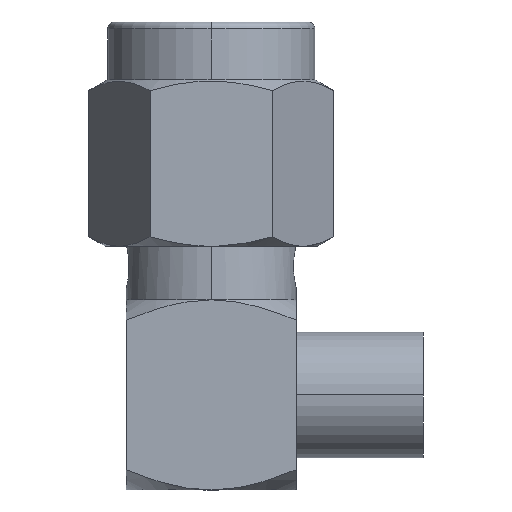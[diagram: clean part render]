
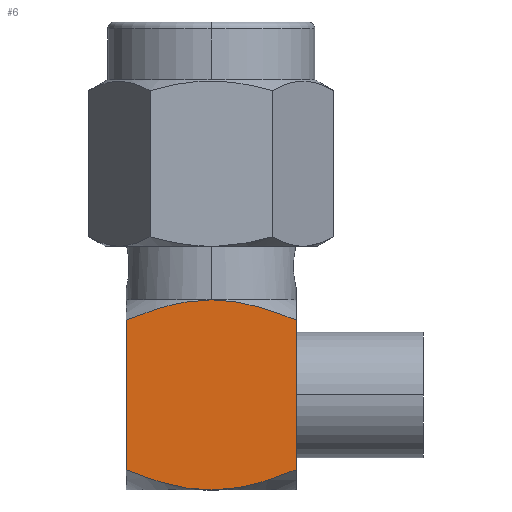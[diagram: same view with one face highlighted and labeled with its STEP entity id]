
A CAD part, left-side view. The second image highlights one B-rep face of the part: STEP entity #6.
In plain terms, the highlighted planar face has unit normal (-1, 0, 0).
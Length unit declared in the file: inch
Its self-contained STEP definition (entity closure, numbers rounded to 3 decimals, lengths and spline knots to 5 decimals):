
#4 = CARTESIAN_POINT ( 'NONE',  ( -0.125, -0.01077, -0.285 ) ) ;
#6 = ADVANCED_FACE ( 'NONE', ( #3490 ), #3476, .F. ) ;
#33 = EDGE_LOOP ( 'NONE', ( #3396, #230, #943, #1094, #768, #2467 ) ) ;
#88 = EDGE_CURVE ( 'NONE', #2793, #2889, #3670, .T. ) ;
#110 = AXIS2_PLACEMENT_3D ( 'NONE', #590, #2604, #573 ) ;
#141 = CARTESIAN_POINT ( 'NONE',  ( -0.125, -0.125, 0.17678 ) ) ;
#213 = CARTESIAN_POINT ( 'NONE',  ( -0.125, -0.04296, -0.56109 ) ) ;
#230 = ORIENTED_EDGE ( 'NONE', *, *, #88, .T. ) ;
#288 = CARTESIAN_POINT ( 'NONE',  ( -0.125, -0.02167, -0.28583 ) ) ;
#493 = CARTESIAN_POINT ( 'NONE',  ( -0.125, 0.04287, -0.28837 ) ) ;
#521 = CARTESIAN_POINT ( 'NONE',  ( -0.125, -0.08464, -0.55067 ) ) ;
#564 = CARTESIAN_POINT ( 'NONE',  ( -0.125, 0.10503, -0.54326 ) ) ;
#573 = DIRECTION ( 'NONE',  ( 0., 1., 0. ) ) ;
#590 = CARTESIAN_POINT ( 'NONE',  ( -0.125, 0., 0.17678 ) ) ;
#598 = CARTESIAN_POINT ( 'NONE',  ( -0.125, -0.05346, -0.29114 ) ) ;
#614 = EDGE_CURVE ( 'NONE', #1146, #2388, #2211, .T. ) ;
#756 = CARTESIAN_POINT ( 'NONE',  ( -0.125, 0.125, -0.53511 ) ) ;
#768 = ORIENTED_EDGE ( 'NONE', *, *, #614, .T. ) ;
#798 = CARTESIAN_POINT ( 'NONE',  ( -0.125, 0.10503, -0.30674 ) ) ;
#807 = CARTESIAN_POINT ( 'NONE',  ( -0.125, 0.02171, -0.565 ) ) ;
#830 = CARTESIAN_POINT ( 'NONE',  ( -0.125, -0.125, -0.53511 ) ) ;
#836 = DIRECTION ( 'NONE',  ( 0., 0., -1. ) ) ;
#897 = CARTESIAN_POINT ( 'NONE',  ( -0.125, -0.125, -0.31489 ) ) ;
#943 = ORIENTED_EDGE ( 'NONE', *, *, #2882, .T. ) ;
#964 = VERTEX_POINT ( 'NONE', #2350 ) ;
#1094 = ORIENTED_EDGE ( 'NONE', *, *, #3395, .F. ) ;
#1100 = CARTESIAN_POINT ( 'NONE',  ( -0.125, 0.125, -0.53511 ) ) ;
#1144 = CARTESIAN_POINT ( 'NONE',  ( -0.125, -0.125, -0.31489 ) ) ;
#1146 = VERTEX_POINT ( 'NONE', #1144 ) ;
#1226 = VERTEX_POINT ( 'NONE', #3305 ) ;
#1363 = CARTESIAN_POINT ( 'NONE',  ( -0.125, 0., -0.285 ) ) ;
#1394 = CARTESIAN_POINT ( 'NONE',  ( -0.125, 0., -0.565 ) ) ;
#1410 = CARTESIAN_POINT ( 'NONE',  ( -0.125, -0.01077, -0.565 ) ) ;
#1502 = CARTESIAN_POINT ( 'NONE',  ( -0.125, -0.08464, -0.29933 ) ) ;
#1756 = B_SPLINE_CURVE_WITH_KNOTS ( 'NONE', 3,
 ( #1363, #1937, #493, #2507, #798, #2805 ),
 .UNSPECIFIED., .F., .F.,
 ( 4, 2, 4 ),
 ( 0.00667, 0.00832, 0.00997 ),
 .UNSPECIFIED. ) ;
#1762 = CARTESIAN_POINT ( 'NONE',  ( -0.125, 0., -0.285 ) ) ;
#1847 = B_SPLINE_CURVE_WITH_KNOTS ( 'NONE', 3,
 ( #3421, #1410, #1974, #213, #2258, #521, #2542, #830 ),
 .UNSPECIFIED., .F., .F.,
 ( 4, 2, 2, 4 ),
 ( 0.01155, 0.01236, 0.01317, 0.0148 ),
 .UNSPECIFIED. ) ;
#1937 = CARTESIAN_POINT ( 'NONE',  ( -0.125, 0.02171, -0.285 ) ) ;
#1974 = CARTESIAN_POINT ( 'NONE',  ( -0.125, -0.02167, -0.56417 ) ) ;
#2038 = EDGE_CURVE ( 'NONE', #2388, #964, #1756, .T. ) ;
#2144 = EDGE_CURVE ( 'NONE', #964, #2793, #2768, .T. ) ;
#2211 = B_SPLINE_CURVE_WITH_KNOTS ( 'NONE', 3,
 ( #897, #3193, #1502, #598, #2320, #288, #4, #1762 ),
 .UNSPECIFIED., .F., .F.,
 ( 4, 2, 2, 4 ),
 ( 0.00338, 0.00502, 0.00585, 0.00667 ),
 .UNSPECIFIED. ) ;
#2258 = CARTESIAN_POINT ( 'NONE',  ( -0.125, -0.05346, -0.55886 ) ) ;
#2320 = CARTESIAN_POINT ( 'NONE',  ( -0.125, -0.04296, -0.28891 ) ) ;
#2350 = CARTESIAN_POINT ( 'NONE',  ( -0.125, 0.125, -0.31489 ) ) ;
#2388 = VERTEX_POINT ( 'NONE', #2780 ) ;
#2443 = DIRECTION ( 'NONE',  ( 0., 0., -1. ) ) ;
#2467 = ORIENTED_EDGE ( 'NONE', *, *, #2038, .T. ) ;
#2507 = CARTESIAN_POINT ( 'NONE',  ( -0.125, 0.08452, -0.29929 ) ) ;
#2515 = CARTESIAN_POINT ( 'NONE',  ( -0.125, 0., -0.565 ) ) ;
#2542 = CARTESIAN_POINT ( 'NONE',  ( -0.125, -0.10505, -0.54325 ) ) ;
#2592 = VECTOR ( 'NONE', #836, 39.37008 ) ;
#2604 = DIRECTION ( 'NONE',  ( 1., 0., 0. ) ) ;
#2768 = LINE ( 'NONE', #2832, #2592 ) ;
#2780 = CARTESIAN_POINT ( 'NONE',  ( -0.125, 0., -0.285 ) ) ;
#2793 = VERTEX_POINT ( 'NONE', #756 ) ;
#2805 = CARTESIAN_POINT ( 'NONE',  ( -0.125, 0.125, -0.31489 ) ) ;
#2815 = CARTESIAN_POINT ( 'NONE',  ( -0.125, 0.04287, -0.56163 ) ) ;
#2832 = CARTESIAN_POINT ( 'NONE',  ( -0.125, 0.125, 0.17678 ) ) ;
#2882 = EDGE_CURVE ( 'NONE', #2889, #1226, #1847, .T. ) ;
#2889 = VERTEX_POINT ( 'NONE', #1394 ) ;
#2911 = VECTOR ( 'NONE', #2443, 39.37008 ) ;
#3193 = CARTESIAN_POINT ( 'NONE',  ( -0.125, -0.10505, -0.30675 ) ) ;
#3305 = CARTESIAN_POINT ( 'NONE',  ( -0.125, -0.125, -0.53511 ) ) ;
#3395 = EDGE_CURVE ( 'NONE', #1146, #1226, #3776, .T. ) ;
#3396 = ORIENTED_EDGE ( 'NONE', *, *, #2144, .T. ) ;
#3421 = CARTESIAN_POINT ( 'NONE',  ( -0.125, 0., -0.565 ) ) ;
#3476 = PLANE ( 'NONE',  #110 ) ;
#3490 = FACE_OUTER_BOUND ( 'NONE', #33, .T. ) ;
#3670 = B_SPLINE_CURVE_WITH_KNOTS ( 'NONE', 3,
 ( #1100, #564, #3747, #2815, #807, #2515 ),
 .UNSPECIFIED., .F., .F.,
 ( 4, 2, 4 ),
 ( 0.00827, 0.00991, 0.01155 ),
 .UNSPECIFIED. ) ;
#3747 = CARTESIAN_POINT ( 'NONE',  ( -0.125, 0.08452, -0.55071 ) ) ;
#3776 = LINE ( 'NONE', #141, #2911 ) ;
